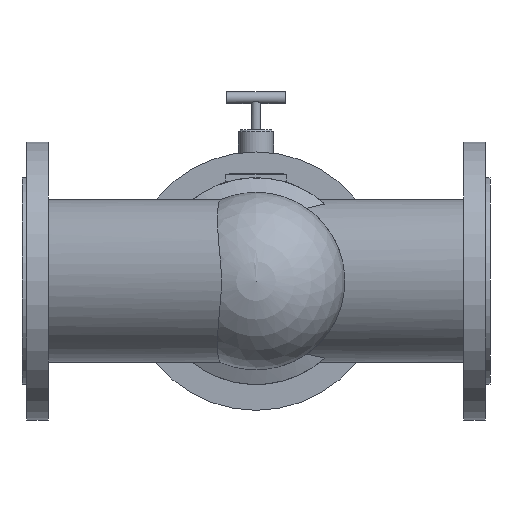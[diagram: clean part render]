
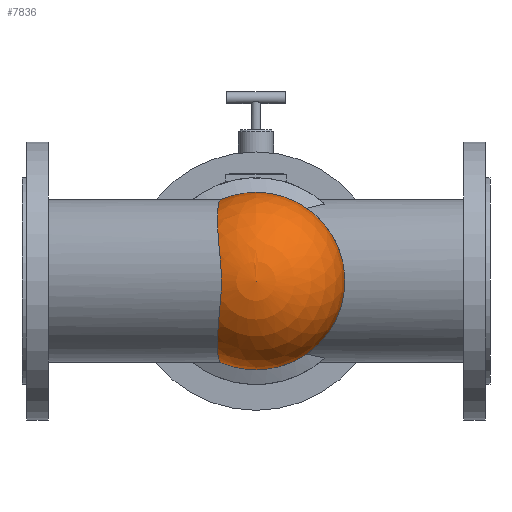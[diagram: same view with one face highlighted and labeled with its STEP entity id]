
A CAD part, front view. The second image highlights one B-rep face of the part: STEP entity #7836.
In plain terms, the highlighted spherical face has radius 91 mm.
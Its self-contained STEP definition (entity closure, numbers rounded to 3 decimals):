
#14=SPHERICAL_SURFACE('',#8330,91.);
#633=B_SPLINE_CURVE_WITH_KNOTS('',3,(#13090,#13091,#13092,#13093,#13094,
#13095,#13096,#13097,#13098,#13099,#13100,#13101,#13102,#13103,#13104,#13105,
#13106,#13107,#13108,#13109),.UNSPECIFIED.,.F.,.F.,(4,2,2,2,2,2,2,2,2,4),
(0.,0.795,1.591,3.182,4.773,
6.364,7.993,9.622,11.252,12.493),
 .UNSPECIFIED.);
#634=B_SPLINE_CURVE_WITH_KNOTS('',3,(#13110,#13111,#13112,#13113,#13114,
#13115,#13116,#13117,#13118,#13119,#13120,#13121,#13122,#13123,#13124,#13125,
#13126,#13127,#13128,#13129),.UNSPECIFIED.,.F.,.F.,(4,2,2,2,2,2,2,2,2,4),
(-12.493,-11.252,-9.622,-7.993,
-6.364,-4.773,-3.182,-1.591,
-0.795,0.),.UNSPECIFIED.);
#1032=FACE_OUTER_BOUND('',#1518,.T.);
#1518=EDGE_LOOP('',(#6963,#6964,#6965,#6966,#6967,#6968));
#3085=CIRCLE('',#8169,91.);
#3086=CIRCLE('',#8170,91.);
#3144=CIRCLE('',#8331,91.);
#3674=VERTEX_POINT('',#12821);
#3675=VERTEX_POINT('',#12822);
#3676=VERTEX_POINT('',#12824);
#3719=VERTEX_POINT('',#13089);
#3842=VERTEX_POINT('',#13531);
#4636=EDGE_CURVE('',#3674,#3675,#3085,.T.);
#4637=EDGE_CURVE('',#3675,#3676,#3086,.T.);
#4699=EDGE_CURVE('',#3719,#3676,#633,.T.);
#4700=EDGE_CURVE('',#3674,#3719,#634,.T.);
#4889=EDGE_CURVE('',#3675,#3842,#3144,.T.);
#6963=ORIENTED_EDGE('',*,*,#4699,.T.);
#6964=ORIENTED_EDGE('',*,*,#4637,.F.);
#6965=ORIENTED_EDGE('',*,*,#4889,.T.);
#6966=ORIENTED_EDGE('',*,*,#4889,.F.);
#6967=ORIENTED_EDGE('',*,*,#4636,.F.);
#6968=ORIENTED_EDGE('',*,*,#4700,.T.);
#7836=ADVANCED_FACE('',(#1032),#14,.T.);
#8169=AXIS2_PLACEMENT_3D('',#12823,#9520,#9521);
#8170=AXIS2_PLACEMENT_3D('',#12825,#9522,#9523);
#8330=AXIS2_PLACEMENT_3D('',#13530,#10020,#10021);
#8331=AXIS2_PLACEMENT_3D('',#13532,#10022,#10023);
#9520=DIRECTION('center_axis',(0.,1.,0.));
#9521=DIRECTION('ref_axis',(1.,0.,0.));
#9522=DIRECTION('center_axis',(0.,1.,0.));
#9523=DIRECTION('ref_axis',(1.,0.,0.));
#10020=DIRECTION('center_axis',(0.,1.,0.));
#10021=DIRECTION('ref_axis',(0.,0.,-1.));
#10022=DIRECTION('center_axis',(1.,0.,0.));
#10023=DIRECTION('ref_axis',(0.,0.,1.));
#12821=CARTESIAN_POINT('',(-27.65,-234.165,57.662));
#12822=CARTESIAN_POINT('',(8.73,-234.165,65.25));
#12823=CARTESIAN_POINT('Origin',(8.73,-234.165,-25.75));
#12824=CARTESIAN_POINT('',(-27.65,-234.165,-109.162));
#12825=CARTESIAN_POINT('Origin',(8.73,-234.165,-25.75));
#13089=CARTESIAN_POINT('',(-26.725,-317.974,-25.75));
#13090=CARTESIAN_POINT('Ctrl Pts',(-26.725,-317.974,
-25.75));
#13091=CARTESIAN_POINT('Ctrl Pts',(-26.725,-317.974,
-28.401));
#13092=CARTESIAN_POINT('Ctrl Pts',(-26.788,-317.822,-31.082));
#13093=CARTESIAN_POINT('Ctrl Pts',(-27.023,-317.204,
-36.454));
#13094=CARTESIAN_POINT('Ctrl Pts',(-27.194,-316.74,
-39.145));
#13095=CARTESIAN_POINT('Ctrl Pts',(-27.802,-314.898,
-47.174));
#13096=CARTESIAN_POINT('Ctrl Pts',(-28.322,-313.069,
-52.466));
#13097=CARTESIAN_POINT('Ctrl Pts',(-29.273,-308.39,
-62.615));
#13098=CARTESIAN_POINT('Ctrl Pts',(-29.705,-305.534,
-67.478));
#13099=CARTESIAN_POINT('Ctrl Pts',(-30.358,-299.051,
-76.484));
#13100=CARTESIAN_POINT('Ctrl Pts',(-30.58,-295.423,-80.626));
#13101=CARTESIAN_POINT('Ctrl Pts',(-30.812,-287.684,-88.061));
#13102=CARTESIAN_POINT('Ctrl Pts',(-30.826,-283.286,
-91.598));
#13103=CARTESIAN_POINT('Ctrl Pts',(-30.623,-273.756,
-97.843));
#13104=CARTESIAN_POINT('Ctrl Pts',(-30.406,-268.624,
-100.552));
#13105=CARTESIAN_POINT('Ctrl Pts',(-29.771,-257.951,
-104.91));
#13106=CARTESIAN_POINT('Ctrl Pts',(-29.353,-252.402,
-106.562));
#13107=CARTESIAN_POINT('Ctrl Pts',(-28.494,-242.591,
-108.474));
#13108=CARTESIAN_POINT('Ctrl Pts',(-28.083,-238.338,
-108.973));
#13109=CARTESIAN_POINT('Ctrl Pts',(-27.65,-234.165,
-109.162));
#13110=CARTESIAN_POINT('Ctrl Pts',(-27.65,-234.165,
57.662));
#13111=CARTESIAN_POINT('Ctrl Pts',(-28.083,-238.338,
57.473));
#13112=CARTESIAN_POINT('Ctrl Pts',(-28.494,-242.591,
56.974));
#13113=CARTESIAN_POINT('Ctrl Pts',(-29.353,-252.402,
55.062));
#13114=CARTESIAN_POINT('Ctrl Pts',(-29.771,-257.951,
53.41));
#13115=CARTESIAN_POINT('Ctrl Pts',(-30.406,-268.624,
49.052));
#13116=CARTESIAN_POINT('Ctrl Pts',(-30.623,-273.756,
46.343));
#13117=CARTESIAN_POINT('Ctrl Pts',(-30.826,-283.286,
40.098));
#13118=CARTESIAN_POINT('Ctrl Pts',(-30.812,-287.684,36.561));
#13119=CARTESIAN_POINT('Ctrl Pts',(-30.58,-295.423,29.126));
#13120=CARTESIAN_POINT('Ctrl Pts',(-30.358,-299.051,
24.984));
#13121=CARTESIAN_POINT('Ctrl Pts',(-29.705,-305.534,
15.978));
#13122=CARTESIAN_POINT('Ctrl Pts',(-29.273,-308.39,
11.115));
#13123=CARTESIAN_POINT('Ctrl Pts',(-28.322,-313.069,
0.966));
#13124=CARTESIAN_POINT('Ctrl Pts',(-27.802,-314.898,
-4.326));
#13125=CARTESIAN_POINT('Ctrl Pts',(-27.194,-316.74,-12.355));
#13126=CARTESIAN_POINT('Ctrl Pts',(-27.023,-317.204,
-15.046));
#13127=CARTESIAN_POINT('Ctrl Pts',(-26.788,-317.822,-20.418));
#13128=CARTESIAN_POINT('Ctrl Pts',(-26.725,-317.974,
-23.099));
#13129=CARTESIAN_POINT('Ctrl Pts',(-26.725,-317.974,
-25.75));
#13530=CARTESIAN_POINT('Origin',(8.73,-234.165,-25.75));
#13531=CARTESIAN_POINT('',(8.73,-325.165,-25.75));
#13532=CARTESIAN_POINT('Origin',(8.73,-234.165,-25.75));
